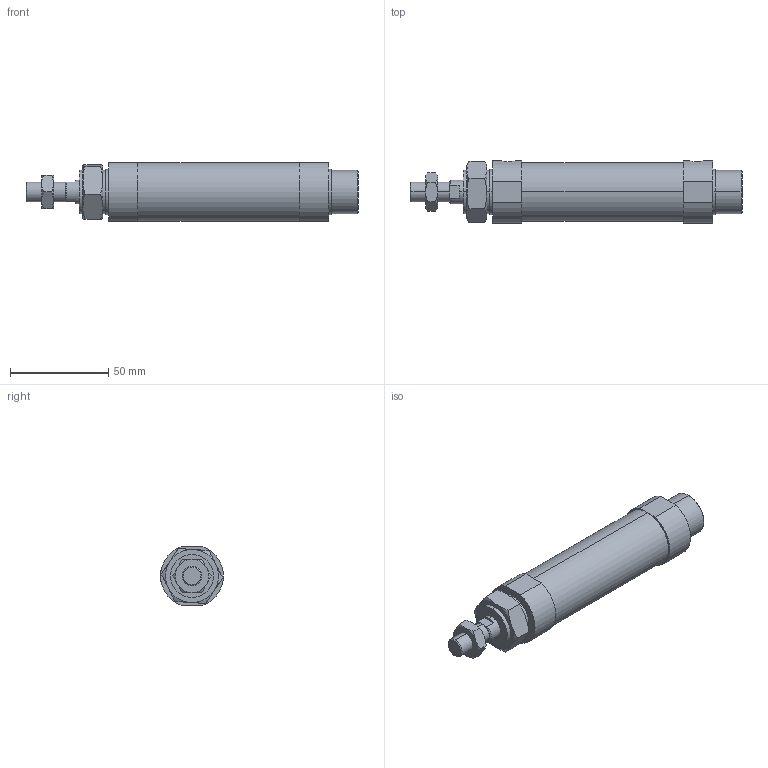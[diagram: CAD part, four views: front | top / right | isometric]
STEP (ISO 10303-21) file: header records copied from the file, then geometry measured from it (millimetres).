
FILE_DESCRIPTION (( 'STEP AP203' ), '1' );
FILE_NAME ('J#2-25-50-N.STEP', '2016-03-08T07:11:58', ( '' ), ( '' ), 'SwSTEP 2.0', 'SolidWorks 2014', '' );
FILE_SCHEMA (( 'CONFIG_CONTROL_DESIGN' ));
Length unit declared in the file: millimetre
Products named in the file (4): J#2-25-50; J#2-25-50-N
Assembly tree (3 placements, depth 2):
  J#2-25-50-N
    J#2-25-50
    (unnamed)
    (unnamed)
Bounding box: 169 x 32 x 30 mm (x, y, z)
Volume: 96969.4 mm3; surface area: 19654.8 mm2
Topology: 3 solids, 3 shells, 97 faces, 214 edges, 126 vertices
Faces by surface type: plane 37, cylinder 26, torus 24, cone 10
Entity records: 3360 total; most frequent: CARTESIAN_POINT 879, DIRECTION 442, ORIENTED_EDGE 420, EDGE_CURVE 210, AXIS2_PLACEMENT_3D 185, VERTEX_POINT 126, EDGE_LOOP 108, ADVANCED_FACE 97
